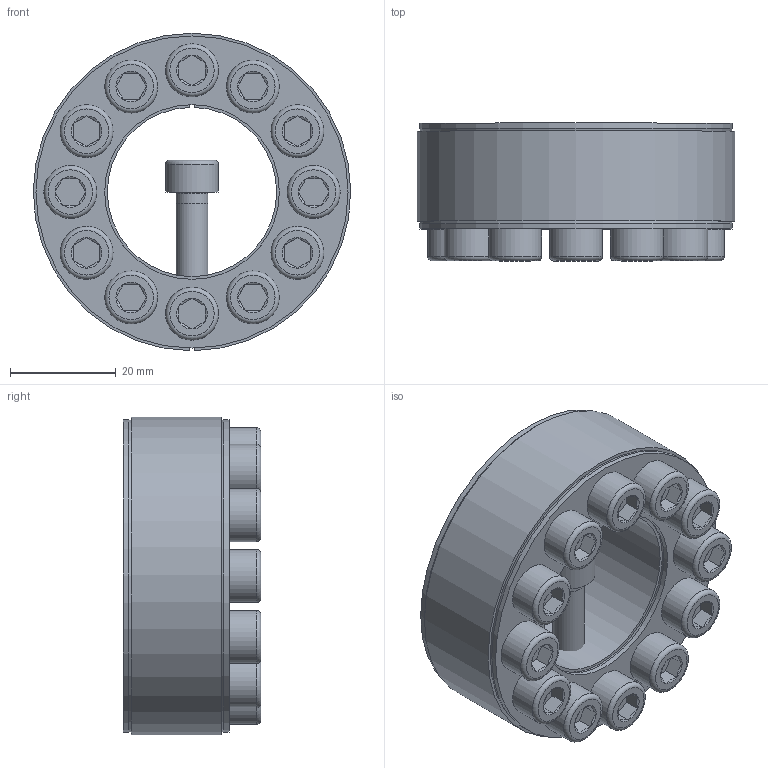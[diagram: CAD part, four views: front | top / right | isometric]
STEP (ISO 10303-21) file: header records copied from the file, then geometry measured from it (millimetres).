
FILE_DESCRIPTION( ( 'Unknown' ), '1' );
FILE_NAME( 'C:/Dokumente und Einstellungen/Sven/Desktop/homepage/cad - homepage/KBS40/KBS 40 - 32 x 60.stp', 'Unknown', ( 'Unknown' ), ( 'Unknown' ), 'XStep 1.0', 'Unknown', ' ' );
FILE_SCHEMA( ( 'automotive_design' ) );
Length unit declared in the file: millimetre
Products named in the file (14): Assem1; KBS 40 32x60; ISO 4762 M6x18; ISO 4762 M6x18-oa0; ISO 4762 M6x18-oa1; ISO 4762 M6x18-oa2; ISO 4762 M6x18-oa3; ISO 4762 M6x18-oa4; ISO 4762 M6x18-oa5; ISO 4762 M6x18-oa6; ISO 4762 M6x18-oa7; ISO 4762 M6x18-oa8; ISO 4762 M6x18-oa9; ISO 4762 M6x18-oa10
Bounding box: 60 x 26 x 60 mm (x, y, z)
Volume: 88169.4 mm3; surface area: 45264.4 mm2
Topology: 26 solids, 26 shells, 684 faces, 1268 edges, 732 vertices
Faces by surface type: plane 328, cone 176, cylinder 132, torus 48
Full cylindrical faces by diameter (mm): 5 x24, 6 x72, 10 x24, 33 x4, 59 x4
Entity records: 8451 total; most frequent: CARTESIAN_POINT 1752, DIRECTION 1392, ORIENTED_EDGE 1008, AXIS2_PLACEMENT_3D 604, EDGE_LOOP 520, EDGE_CURVE 504, FACE_OUTER_BOUND 430, ADVANCED_FACE 342
